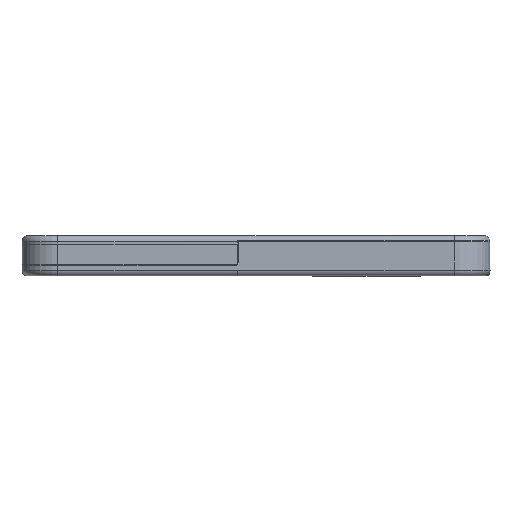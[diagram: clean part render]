
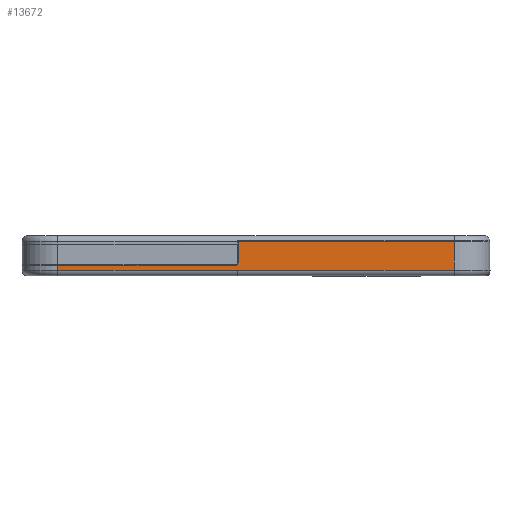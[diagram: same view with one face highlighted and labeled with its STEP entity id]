
A CAD part, left-side view. The second image highlights one B-rep face of the part: STEP entity #13672.
In plain terms, the highlighted planar face has unit normal (-1, 0, 0).
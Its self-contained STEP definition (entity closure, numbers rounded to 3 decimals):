
#553=CIRCLE('',#14438,1.);
#1142=FACE_OUTER_BOUND('',#1954,.T.);
#1954=EDGE_LOOP('',(#9546,#9547,#9548,#9549,#9550,#9551,#9552,#9553));
#2813=LINE('',#19916,#4245);
#2819=LINE('',#19936,#4251);
#2882=LINE('',#20178,#4314);
#2883=LINE('',#20182,#4315);
#2978=LINE('',#20461,#4410);
#2989=LINE('',#20484,#4421);
#2990=LINE('',#20486,#4422);
#4245=VECTOR('',#15835,10.);
#4251=VECTOR('',#15853,10.);
#4314=VECTOR('',#16026,10.);
#4315=VECTOR('',#16031,10.);
#4410=VECTOR('',#16294,10.);
#4421=VECTOR('',#16321,10.);
#4422=VECTOR('',#16324,10.);
#5674=VERTEX_POINT('',#19913);
#5675=VERTEX_POINT('',#19915);
#5681=VERTEX_POINT('',#19929);
#5683=VERTEX_POINT('',#19935);
#5760=VERTEX_POINT('',#20172);
#5761=VERTEX_POINT('',#20176);
#5762=VERTEX_POINT('',#20180);
#5865=VERTEX_POINT('',#20480);
#7007=EDGE_CURVE('',#5675,#5674,#2813,.T.);
#7014=EDGE_CURVE('',#5675,#5681,#553,.T.);
#7017=EDGE_CURVE('',#5681,#5683,#2819,.T.);
#7122=EDGE_CURVE('',#5760,#5761,#2882,.T.);
#7124=EDGE_CURVE('',#5761,#5762,#2883,.T.);
#7266=EDGE_CURVE('',#5674,#5762,#2978,.T.);
#7277=EDGE_CURVE('',#5865,#5683,#2989,.T.);
#7278=EDGE_CURVE('',#5760,#5865,#2990,.T.);
#9546=ORIENTED_EDGE('',*,*,#7014,.F.);
#9547=ORIENTED_EDGE('',*,*,#7007,.T.);
#9548=ORIENTED_EDGE('',*,*,#7266,.T.);
#9549=ORIENTED_EDGE('',*,*,#7124,.F.);
#9550=ORIENTED_EDGE('',*,*,#7122,.F.);
#9551=ORIENTED_EDGE('',*,*,#7278,.T.);
#9552=ORIENTED_EDGE('',*,*,#7277,.T.);
#9553=ORIENTED_EDGE('',*,*,#7017,.F.);
#13156=PLANE('',#14590);
#13672=ADVANCED_FACE('',(#1142),#13156,.T.);
#14438=AXIS2_PLACEMENT_3D('',#19930,#15846,#15847);
#14590=AXIS2_PLACEMENT_3D('',#20485,#16322,#16323);
#15835=DIRECTION('',(0.,1.,0.));
#15846=DIRECTION('center_axis',(-1.,0.,0.));
#15847=DIRECTION('ref_axis',(0.,-0.707,-0.707));
#15853=DIRECTION('',(0.,0.,1.));
#16026=DIRECTION('',(0.,1.,0.));
#16031=DIRECTION('',(0.,1.,0.));
#16294=DIRECTION('',(0.,0.,-1.));
#16321=DIRECTION('',(0.,1.,0.));
#16322=DIRECTION('center_axis',(-1.,0.,0.));
#16323=DIRECTION('ref_axis',(0.,0.,1.));
#16324=DIRECTION('',(0.,0.,1.));
#19913=CARTESIAN_POINT('',(-42.05,71.5,3.922));
#19915=CARTESIAN_POINT('',(-42.05,7.47,3.922));
#19916=CARTESIAN_POINT('',(-42.05,-32.449,3.922));
#19929=CARTESIAN_POINT('',(-42.05,6.47,4.922));
#19930=CARTESIAN_POINT('Origin',(-42.05,7.47,4.922));
#19935=CARTESIAN_POINT('',(-42.05,6.47,12.5));
#19936=CARTESIAN_POINT('',(-42.05,6.47,3.2));
#20172=CARTESIAN_POINT('',(-42.05,-71.5,2.1));
#20176=CARTESIAN_POINT('',(-42.05,6.67,2.1));
#20178=CARTESIAN_POINT('',(-42.05,6.67,2.1));
#20180=CARTESIAN_POINT('',(-42.05,71.5,2.1));
#20182=CARTESIAN_POINT('',(-42.05,71.5,2.1));
#20461=CARTESIAN_POINT('',(-42.05,71.5,12.5));
#20480=CARTESIAN_POINT('',(-42.05,-71.5,12.5));
#20484=CARTESIAN_POINT('',(-42.05,-71.5,12.5));
#20485=CARTESIAN_POINT('Origin',(-42.05,-71.5,0.1));
#20486=CARTESIAN_POINT('',(-42.05,-71.5,12.5));
